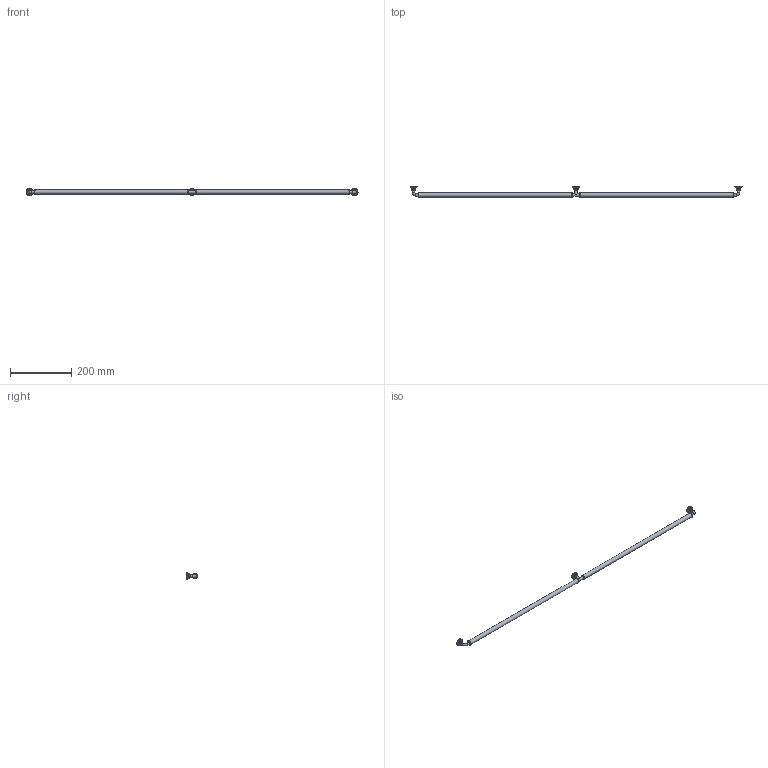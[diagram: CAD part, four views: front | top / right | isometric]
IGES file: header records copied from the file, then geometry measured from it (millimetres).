
Start section: Data from Parasolid IGES Translator 15.0.47, Copyright(c) 2006 Siemens P LM Software. All Rights Reserved.
Global section: file name: 9132280.igs; native system:  By UGS Corp.; preprocessor: XPlus GENERIC/IGES 3.0; author: Noname; organization: Noname; date: 20140122.102225; units: millimetre
Bounding box: 1088 x 35 x 23 mm (x, y, z)
Surface area: 51754.9 mm2 (no closed solid volume)
Topology: 0 solids, 0 shells, 67 faces, 304 edges, 250 vertices
Faces by surface type: revolution 56, extrusion 11
